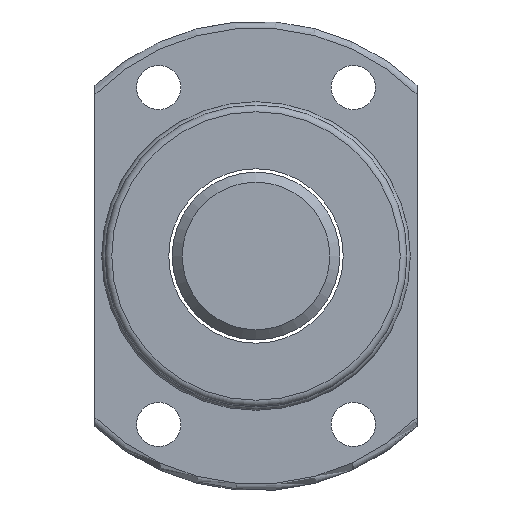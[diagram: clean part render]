
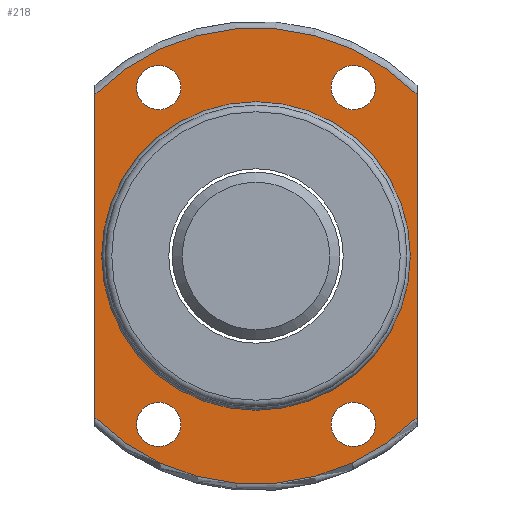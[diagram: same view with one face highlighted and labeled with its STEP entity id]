
A CAD part, left-side view. The second image highlights one B-rep face of the part: STEP entity #218.
In plain terms, the highlighted planar face has unit normal (-1, 0, 0).
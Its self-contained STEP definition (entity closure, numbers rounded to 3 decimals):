
#101=LINE('',#928,#109);
#102=LINE('',#929,#110);
#109=VECTOR('',#737,1.);
#110=VECTOR('',#738,1.);
#170=FACE_BOUND('',#298,.T.);
#171=FACE_BOUND('',#299,.T.);
#172=FACE_BOUND('',#300,.T.);
#173=FACE_BOUND('',#301,.T.);
#174=FACE_BOUND('',#302,.T.);
#218=ADVANCED_FACE('',(#259,#170,#171,#172,#173,#174),#240,.T.);
#240=PLANE('',#621);
#259=FACE_OUTER_BOUND('',#297,.T.);
#297=EDGE_LOOP('',(#386,#387,#388,#389));
#298=EDGE_LOOP('',(#390));
#299=EDGE_LOOP('',(#391));
#300=EDGE_LOOP('',(#392));
#301=EDGE_LOOP('',(#393));
#302=EDGE_LOOP('',(#394));
#386=ORIENTED_EDGE('',*,*,#521,.F.);
#387=ORIENTED_EDGE('',*,*,#503,.F.);
#388=ORIENTED_EDGE('',*,*,#522,.T.);
#389=ORIENTED_EDGE('',*,*,#519,.F.);
#390=ORIENTED_EDGE('',*,*,#523,.T.);
#391=ORIENTED_EDGE('',*,*,#524,.F.);
#392=ORIENTED_EDGE('',*,*,#525,.F.);
#393=ORIENTED_EDGE('',*,*,#526,.F.);
#394=ORIENTED_EDGE('',*,*,#527,.F.);
#455=VERTEX_POINT('',#864);
#456=VERTEX_POINT('',#871);
#468=VERTEX_POINT('',#918);
#469=VERTEX_POINT('',#920);
#470=VERTEX_POINT('',#931);
#471=VERTEX_POINT('',#933);
#472=VERTEX_POINT('',#935);
#473=VERTEX_POINT('',#937);
#474=VERTEX_POINT('',#939);
#503=EDGE_CURVE('',#456,#455,#550,.T.);
#519=EDGE_CURVE('',#468,#469,#559,.T.);
#521=EDGE_CURVE('',#455,#468,#101,.T.);
#522=EDGE_CURVE('',#456,#469,#102,.T.);
#523=EDGE_CURVE('',#470,#470,#560,.T.);
#524=EDGE_CURVE('',#471,#471,#561,.T.);
#525=EDGE_CURVE('',#472,#472,#562,.T.);
#526=EDGE_CURVE('',#473,#473,#563,.T.);
#527=EDGE_CURVE('',#474,#474,#564,.T.);
#550=CIRCLE('',#601,34.);
#559=CIRCLE('',#614,34.);
#560=CIRCLE('',#616,23.);
#561=CIRCLE('',#617,3.3);
#562=CIRCLE('',#618,3.3);
#563=CIRCLE('',#619,3.3);
#564=CIRCLE('',#620,3.3);
#601=AXIS2_PLACEMENT_3D('',#872,#703,#704);
#614=AXIS2_PLACEMENT_3D('',#919,#733,#734);
#616=AXIS2_PLACEMENT_3D('',#930,#739,#740);
#617=AXIS2_PLACEMENT_3D('',#932,#741,#742);
#618=AXIS2_PLACEMENT_3D('',#934,#743,#744);
#619=AXIS2_PLACEMENT_3D('',#936,#745,#746);
#620=AXIS2_PLACEMENT_3D('',#938,#747,#748);
#621=AXIS2_PLACEMENT_3D('',#940,#749,#750);
#703=DIRECTION('',(1.,0.,0.));
#704=DIRECTION('',(0.,1.,0.));
#733=DIRECTION('',(1.,0.,0.));
#734=DIRECTION('',(0.,1.,0.));
#737=DIRECTION('',(0.,0.,1.));
#738=DIRECTION('',(0.,0.,1.));
#739=DIRECTION('',(1.,0.,0.));
#740=DIRECTION('',(0.,1.,0.));
#741=DIRECTION('',(-1.,0.,0.));
#742=DIRECTION('',(0.,-1.,0.));
#743=DIRECTION('',(-1.,0.,0.));
#744=DIRECTION('',(0.,-1.,0.));
#745=DIRECTION('',(-1.,0.,0.));
#746=DIRECTION('',(0.,-1.,0.));
#747=DIRECTION('',(-1.,0.,0.));
#748=DIRECTION('',(0.,-1.,0.));
#749=DIRECTION('',(-1.,0.,0.));
#750=DIRECTION('',(0.,-1.,0.));
#864=CARTESIAN_POINT('',(-40.,24.,-24.083));
#871=CARTESIAN_POINT('',(-40.,-24.,-24.083));
#872=CARTESIAN_POINT('',(-40.,0.,0.));
#918=CARTESIAN_POINT('',(-40.,24.,24.083));
#919=CARTESIAN_POINT('',(-40.,0.,0.));
#920=CARTESIAN_POINT('',(-40.,-24.,24.083));
#928=CARTESIAN_POINT('',(-40.,24.,0.));
#929=CARTESIAN_POINT('',(-40.,-24.,0.));
#930=CARTESIAN_POINT('',(-40.,0.,0.));
#931=CARTESIAN_POINT('',(-40.,23.,0.));
#932=CARTESIAN_POINT('',(-40.,14.5,25.11));
#933=CARTESIAN_POINT('',(-40.,11.2,25.11));
#934=CARTESIAN_POINT('',(-40.,-14.5,25.11));
#935=CARTESIAN_POINT('',(-40.,-17.8,25.11));
#936=CARTESIAN_POINT('',(-40.,-14.5,-25.11));
#937=CARTESIAN_POINT('',(-40.,-17.8,-25.11));
#938=CARTESIAN_POINT('',(-40.,14.5,-25.11));
#939=CARTESIAN_POINT('',(-40.,11.2,-25.11));
#940=CARTESIAN_POINT('',(-40.,28.5,0.));
